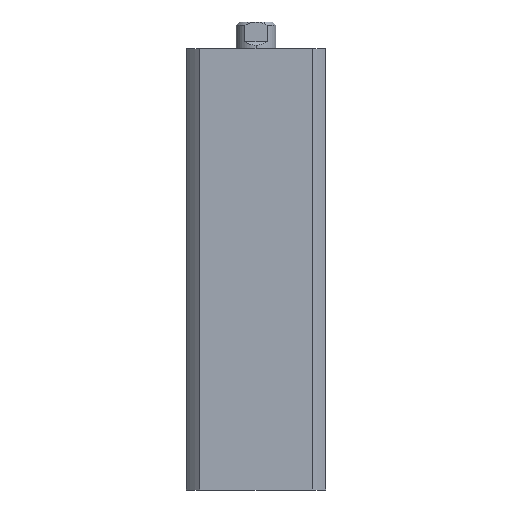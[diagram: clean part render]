
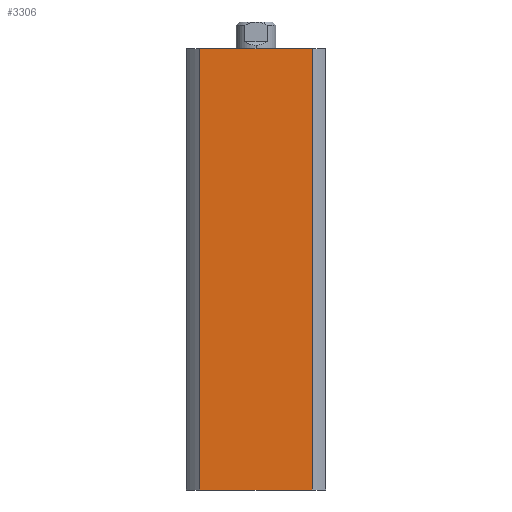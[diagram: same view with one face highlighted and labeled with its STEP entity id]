
A CAD part, left-side view. The second image highlights one B-rep face of the part: STEP entity #3306.
In plain terms, the highlighted planar face has unit normal (-1, 0, 0).
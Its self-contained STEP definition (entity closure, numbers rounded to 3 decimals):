
#283 = DIRECTION ( 'NONE',  ( 0., -1., 0. ) ) ;
#289 = CARTESIAN_POINT ( 'NONE',  ( -21., 21., 133. ) ) ;
#382 = CARTESIAN_POINT ( 'NONE',  ( -21., 21., 133. ) ) ;
#389 = PLANE ( 'NONE',  #4161 ) ;
#391 = DIRECTION ( 'NONE',  ( 1., 0., 0. ) ) ;
#392 = DIRECTION ( 'NONE',  ( 0., 1., 0. ) ) ;
#507 = CARTESIAN_POINT ( 'NONE',  ( -21., 16.971, 133. ) ) ;
#508 = DIRECTION ( 'NONE',  ( 0., 0., 1. ) ) ;
#810 = EDGE_CURVE ( 'NONE', #1128, #1131, #3784, .T. ) ;
#848 = EDGE_CURVE ( 'NONE', #1148, #1543, #3824, .T. ) ;
#856 = EDGE_CURVE ( 'NONE', #1543, #1131, #3840, .T. ) ;
#872 = EDGE_LOOP ( 'NONE', ( #1730, #937, #891, #883 ) ) ;
#883 = ORIENTED_EDGE ( 'NONE', *, *, #810, .T. ) ;
#891 = ORIENTED_EDGE ( 'NONE', *, *, #3621, .F. ) ;
#937 = ORIENTED_EDGE ( 'NONE', *, *, #848, .F. ) ;
#1128 = VERTEX_POINT ( 'NONE', #4738 ) ;
#1131 = VERTEX_POINT ( 'NONE', #4741 ) ;
#1148 = VERTEX_POINT ( 'NONE', #4758 ) ;
#1543 = VERTEX_POINT ( 'NONE', #4768 ) ;
#1730 = ORIENTED_EDGE ( 'NONE', *, *, #856, .F. ) ;
#2000 = FACE_OUTER_BOUND ( 'NONE', #872, .T. ) ;
#2022 = LINE ( 'NONE', #507, #2090 ) ;
#2090 = VECTOR ( 'NONE', #508, 1000. ) ;
#3306 = ADVANCED_FACE ( 'NONE', ( #2000 ), #389, .F. ) ;
#3621 = EDGE_CURVE ( 'NONE', #1128, #1148, #2022, .T. ) ;
#3784 = LINE ( 'NONE', #4592, #3786 ) ;
#3786 = VECTOR ( 'NONE', #4588, 1000. ) ;
#3824 = LINE ( 'NONE', #289, #3829 ) ;
#3829 = VECTOR ( 'NONE', #283, 1000. ) ;
#3840 = LINE ( 'NONE', #4666, #3843 ) ;
#3843 = VECTOR ( 'NONE', #4668, 1000. ) ;
#4161 = AXIS2_PLACEMENT_3D ( 'NONE', #382, #391, #392 ) ;
#4588 = DIRECTION ( 'NONE',  ( 0., -1., 0. ) ) ;
#4592 = CARTESIAN_POINT ( 'NONE',  ( -21., 21., 0. ) ) ;
#4666 = CARTESIAN_POINT ( 'NONE',  ( -21., -16.971, 133. ) ) ;
#4668 = DIRECTION ( 'NONE',  ( 0., 0., -1. ) ) ;
#4738 = CARTESIAN_POINT ( 'NONE',  ( -21., 16.971, 0. ) ) ;
#4741 = CARTESIAN_POINT ( 'NONE',  ( -21., -16.971, 0. ) ) ;
#4758 = CARTESIAN_POINT ( 'NONE',  ( -21., 16.971, 133. ) ) ;
#4768 = CARTESIAN_POINT ( 'NONE',  ( -21., -16.971, 133. ) ) ;
